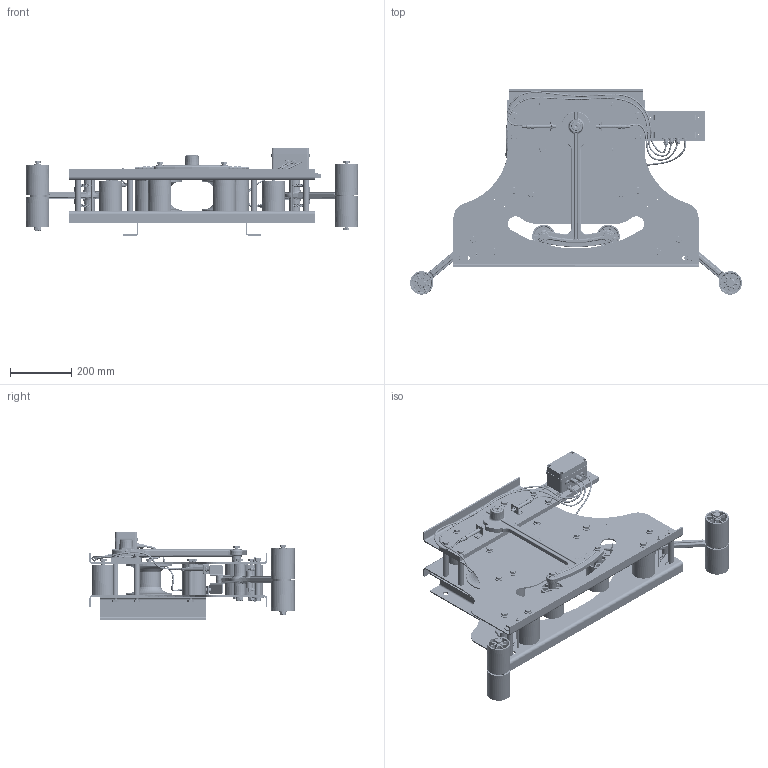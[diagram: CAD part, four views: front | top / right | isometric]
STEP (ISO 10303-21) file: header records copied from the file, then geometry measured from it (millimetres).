
FILE_DESCRIPTION(/* description */ (''),/* implementation_level */ '2;1');
FILE_NAME(/* name */ 'K:\MANDARIC\89017.stp',/* time_stamp */ '2017-12-01T11:49:35+01:00',/* author */ ('milman01'),/* organization */ ('Hillmar Industries Ltd.'),/* preprocessor_version */ 'ST-DEVELOPER v16.1',/* originating_system */ 'Autodesk Inventor 2016',/* authorisation */ '');
FILE_SCHEMA (('AUTOMOTIVE_DESIGN { 1 0 10303 214 3 1 1 }'));
Products named in the file (1): 89017
Bounding box: 1083.26 x 669.62 x 285.5 mm (x, y, z)
Volume: 10184620.9 mm3; surface area: 3627358.8 mm2
Topology: 48 solids, 108 shells, 11149 faces, 27352 edges, 16676 vertices
Faces by surface type: bspline 3740, plane 3496, cylinder 1977, torus 1004, cone 904, sphere 28
Full cylindrical faces by diameter (mm): 1 x16, 1.33 x16, 3 x6, 3.242 x22, 3.5 x11, 4 x12, 4.5 x8, 4.917 x4, 5 x4, 5.459 x2, 5.5 x4, 6 x4, 6.647 x4, 7 x6, 8 x20, 8.376 x4, 8.7 x2, 9 x24, 9.2 x4, 10 x6, 10.106 x16, 10.16 x1, 10.38 x2, 10.4 x4, 10.6 x4, 10.773 x4, 11.053 x38, 11.5 x4, 12 x59, 12.5 x2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
Entity records: 460727 total; most frequent: CARTESIAN_POINT 221126, ORIENTED_EDGE 51282, DIRECTION 39608, EDGE_CURVE 25581, AXIS2_PLACEMENT_3D 17065, VERTEX_POINT 16134, EDGE_LOOP 12971, FACE_OUTER_BOUND 11149
